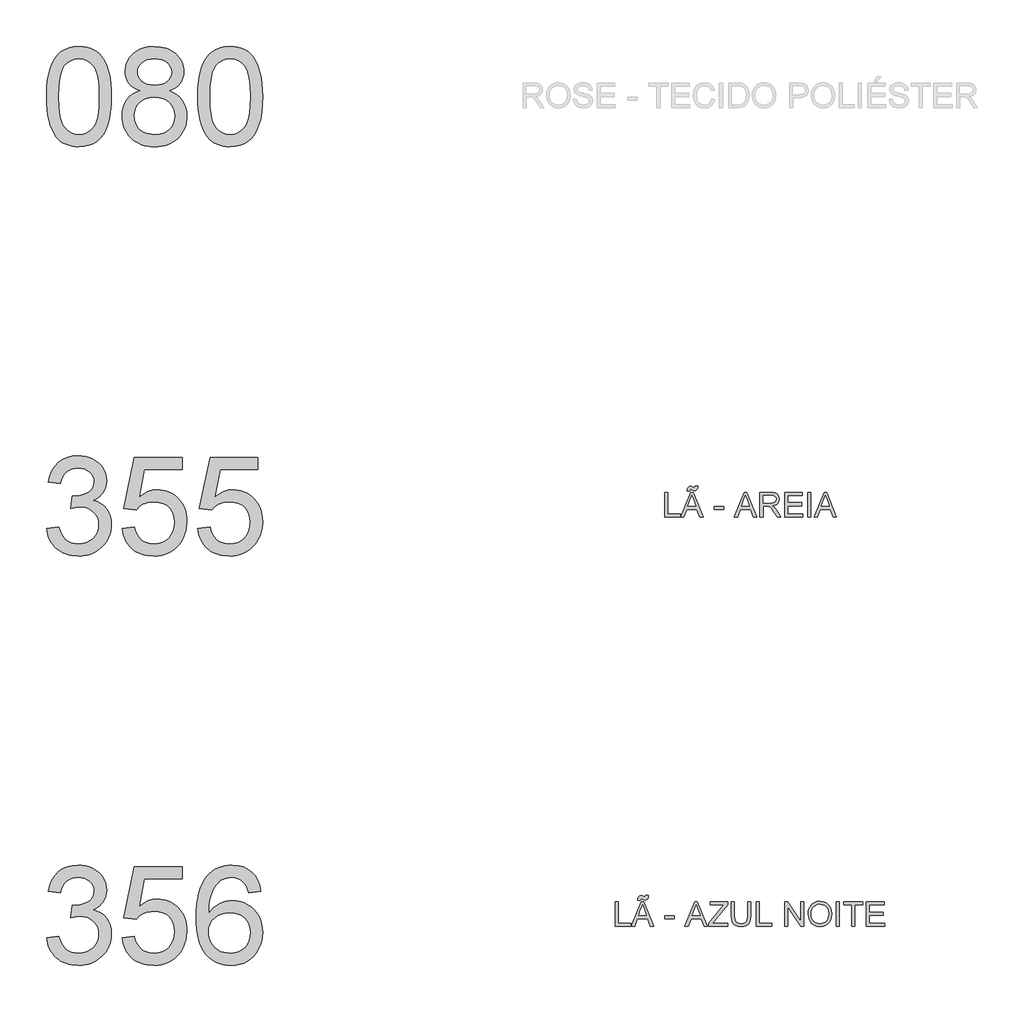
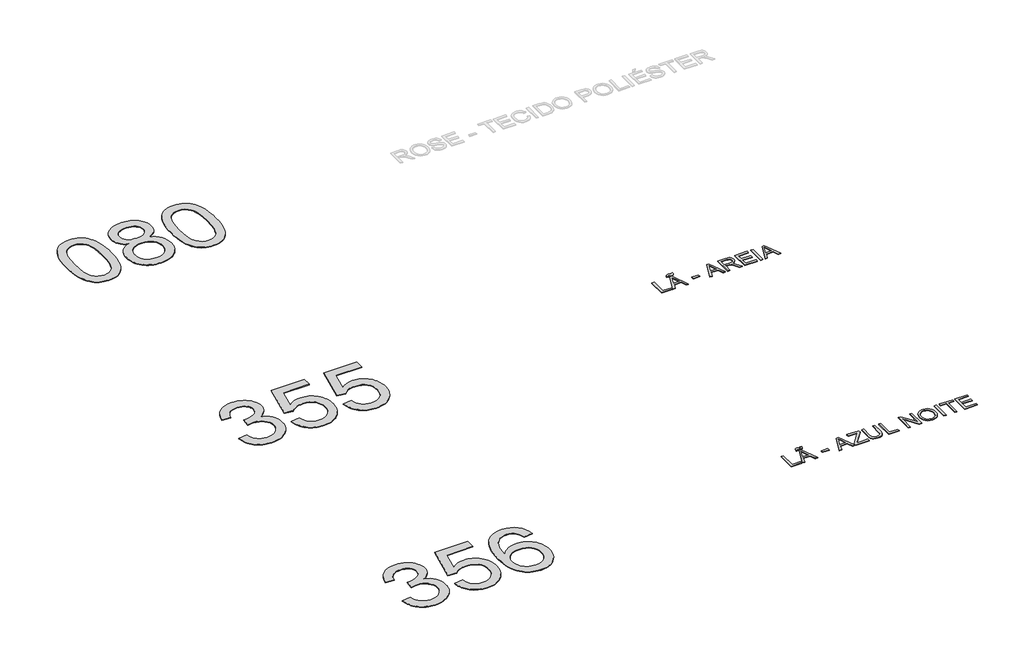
# One storey, part 3 of 67: 5 proxies.
"""IFC4 building model written with IfcOpenShell, lengths in millimetres."""

from ifc_helpers import new_model, si_unit, origin, origin_with_axes, place, context, project, spatial, polyline, outline, extrude, element, save

model = new_model("IFC4")

# Units and contexts
model_context = context("Model", 3, world=origin())
ifc_project = project(units=[si_unit("LENGTHUNIT", "METRE", prefix="MILLI")], contexts=[model_context])

# Site, building, storey
site = spatial("IfcSite", under=ifc_project)
building = spatial("IfcBuilding", under=site)
storey = spatial("IfcBuildingStorey", under=building, Name="Marelli - Linha COLAB - Planta Baixa", Elevation=0.0)

# Proxies
placement = place(None, origin())
element("IfcBuildingElementProxy", 1, Name="1200mm Arial", ObjectType="1200mm Arial", at=placement, inside=storey, context=model_context, shape_type="SweptSolid", body=[
    extrude(outline(polyline([(-25181.1313792, -109895.792664), (-25178.3630672, -109794.4319773), (-25170.0581311, -109702.8385576), (-25156.2165711, -109621.0124048), (-25136.838387, -109548.953519), (-25112.0063523, -109486.073289), (-25081.8032405, -109431.7831035), (-25046.2290516, -109386.0829627), (-25005.2837855, -109348.9728664), (-24958.8294866, -109320.2596767), (-24906.728199, -109299.7502555), (-24848.9799228, -109287.4446027), (-24785.584658, -109283.3427185), (-24737.9439396, -109285.7707396), (-24692.7312424, -109293.0548031), (-24649.9465664, -109305.194909), (-24609.5899115, -109322.1910572), (-24572.6361651, -109343.7581391), (-24540.0602144, -109369.6110463), (-24511.8620595, -109399.7497788), (-24488.0417003, -109434.1743365), (-24467.4035204, -109472.7467637), (-24448.7519032, -109515.3291046), (-24417.4083572, -109612.5235278), (-24405.4337983, -109669.6831928), (-24396.8805419, -109735.9479371), (-24391.7485881, -109811.3177609), (-24390.0379368, -109895.792664), (-24392.7786576, -109996.5095573), (-24401.0008202, -110087.6431245), (-24414.7044246, -110169.1933658), (-24433.8894706, -110241.1602811), (-24458.5283672, -110304.0681023), (-24488.5935233, -110358.4410612), (-24524.0849388, -110404.2791578), (-24565.0026137, -110441.5823921), (-24611.5120949, -110470.4887199), (-24663.7789294, -110491.1360968), (-24721.8031171, -110503.524523), (-24785.584658, -110507.6539984), (-24828.2589694, -110505.8605737), (-24868.5788361, -110500.4802995), (-24906.544258, -110491.5131759), (-24942.1552351, -110478.9592028), (-24975.4117675, -110462.8183803), (-25006.3138551, -110443.0907083), (-25034.8614979, -110419.7761868), (-25061.054696, -110392.8748159), (-25089.1976686, -110350.2786794), (-25113.5882449, -110302.0999336), (-25134.2264248, -110248.3385785), (-25151.1122084, -110188.9946142), (-25164.2455956, -110124.0680406), (-25173.6265865, -110053.5588577), (-25179.255181, -109977.4670655), (-25181.1313792, -109895.792664)]), holes=[polyline([(-25030.446914, -109895.4983584), (-25026.03233, -110026.4919399), (-25012.7885782, -110132.5247279), (-25002.8557643, -110176.1808245), (-24990.7156585, -110213.5967226), (-24976.3682607, -110244.7724225), (-24959.8135709, -110269.7079239), (-24922.4367602, -110307.884878), (-24880.9396711, -110335.1541309), (-24835.3223037, -110351.5156826), (-24785.584658, -110356.9695332), (-24735.8470122, -110351.4972885), (-24690.2296448, -110335.0805545), (-24648.7325558, -110307.7193311), (-24611.3557451, -110269.4136183), (-24594.8010553, -110244.418336), (-24580.4536575, -110213.2104465), (-24568.3135516, -110175.7899498), (-24558.3807378, -110132.1568459), (-24545.1369859, -110026.2528166), (-24540.722402, -109895.4983584), (-24544.9898331, -109767.9720648), (-24557.7921266, -109663.8062779), (-24567.3938467, -109620.4835744), (-24579.1292823, -109583.0009976), (-24592.9984335, -109551.3585475), (-24609.0013003, -109525.5562241), (-24645.7527116, -109485.5122689), (-24687.7280473, -109456.9094438), (-24734.9273073, -109439.7477487), (-24787.3504916, -109434.0271837), (-24836.8306199, -109439.067167), (-24881.6754351, -109454.187117), (-24921.8849372, -109479.3870337), (-24957.4591261, -109514.666917), (-24974.5656389, -109543.2145599), (-24989.3912833, -109577.2068562), (-25001.9360594, -109616.6438061), (-25012.199967, -109661.5254095), (-25025.8851772, -109767.6225769), (-25030.446914, -109895.4983584)])]), origin_with_axes(), (0.0, 0.0, 1.0), 10.0),
    extrude(outline(polyline([(-24038.637055, -109824.8650154), (-24081.9827511, -109806.7652212), (-24119.3135765, -109785.1337599), (-24150.6295314, -109759.9706314), (-24175.9306156, -109731.2758358), (-24195.4375584, -109699.3252845), (-24209.3710889, -109664.3948891), (-24217.7312073, -109626.4846495), (-24220.5179134, -109585.5945657), (-24214.4478605, -109524.1398784), (-24206.8602943, -109495.3301197), (-24196.2377017, -109467.7987509), (-24182.5800826, -109441.545772), (-24165.8874371, -109416.571183), (-24123.3970667, -109370.4571749), (-24098.109778, -109350.0397242), (-24070.8083355, -109332.3446002), (-24041.492739, -109317.371803), (-24010.1629886, -109305.1213326), (-23941.461026, -109288.787372), (-23864.7024477, -109283.3427185), (-23787.5759874, -109288.9161307), (-23718.35899, -109305.6363674), (-23686.7165399, -109318.1765449), (-23657.0514555, -109333.5034285), (-23629.3637368, -109351.6170182), (-23603.6533839, -109372.5173141), (-23560.3904613, -109419.5326331), (-23543.3943131, -109444.8613085), (-23529.4883737, -109471.4039944), (-23518.672643, -109499.1606909), (-23510.9471211, -109528.1313981), (-23506.311808, -109558.3161158), (-23504.7667036, -109589.7148441), (-23507.5166215, -109629.160991), (-23515.7663752, -109665.9767817), (-23529.5159648, -109700.1622161), (-23548.7653902, -109731.7172942), (-23573.6066219, -109760.2189518), (-23604.1316305, -109785.2441245), (-23640.3404159, -109806.7928124), (-23682.2329781, -109824.8650154), (-23632.7068645, -109845.9354566), (-23589.4899271, -109872.6528865), (-23552.5821659, -109905.0173051), (-23521.983581, -109943.0287122), (-23497.9700837, -109985.8409794), (-23480.8175857, -110032.607978), (-23470.5260869, -110083.3297081), (-23467.0955873, -110138.0061697), (-23468.7970415, -110176.3670647), (-23473.9014042, -110213.1644613), (-23482.4086753, -110248.3983594), (-23494.3188549, -110282.068759), (-23509.631943, -110314.1756601), (-23528.3479395, -110344.7190628), (-23550.4668444, -110373.6989669), (-23575.9886578, -110401.1153726), (-23604.2879803, -110426.085363), (-23634.7394125, -110447.7260214), (-23667.3429543, -110466.0373477), (-23702.0986058, -110481.019342), (-23739.006367, -110492.6720042), (-23778.0662378, -110500.9953343), (-23819.2782183, -110505.9893324), (-23862.6423085, -110507.6539984), (-23906.0063987, -110505.9824346), (-23947.2183792, -110500.9677432), (-23986.27825, -110492.6099241), (-24023.1860112, -110480.9089774), (-24057.9416627, -110465.864903), (-24090.5452045, -110447.4777011), (-24120.9966367, -110425.7473715), (-24149.2959591, -110400.6739142), (-24174.8177725, -110373.1034579), (-24196.9366775, -110343.8821312), (-24215.652674, -110313.009934), (-24230.9657621, -110280.4868664), (-24242.8759417, -110246.3129283), (-24251.3832128, -110210.4881198), (-24256.4875755, -110173.0124408), (-24258.1890297, -110133.8858913), (-24254.6205744, -110076.7170293), (-24243.9152083, -110024.4042096), (-24226.0729315, -109976.9474322), (-24201.0937441, -109934.3466971), (-24169.5294689, -109897.3745566), (-24131.931929, -109866.8035628), (-24088.3011243, -109842.6337157), (-24038.637055, -109824.8650154)]), holes=[polyline([(-24069.8334482, -109590.0091496), (-24066.4949191, -109624.553269), (-24056.4793317, -109655.7864504), (-24039.7866862, -109683.7086938), (-24016.4169825, -109708.3199993), (-23986.6645261, -109728.4063562), (-23950.8236227, -109742.753754), (-23908.8942723, -109751.3621927), (-23860.8764749, -109754.2316723), (-23814.0450969, -109751.3805868), (-23773.0262545, -109742.8273304), (-23737.8199475, -109728.5719031), (-23708.4261761, -109708.6143049), (-23685.2496104, -109684.5180342), (-23668.6949206, -109657.8465896), (-23658.7621068, -109628.5999709), (-23655.4511688, -109596.7781784), (-23658.8724714, -109563.714784), (-23669.136379, -109533.3921106), (-23686.2428918, -109505.810158), (-23710.1920097, -109480.9689263), (-23740.2479687, -109460.4319139), (-23775.6750048, -109445.7626193), (-23816.4731181, -109436.9610426), (-23862.6423085, -109434.0271837), (-23909.1701838, -109436.8966633), (-23950.1614351, -109445.5051019), (-23985.6160624, -109459.8524998), (-24015.5340657, -109479.9388567), (-24039.2900455, -109504.0351274), (-24056.2586026, -109530.4122664), (-24066.4397368, -109559.0702739), (-24069.8334482, -109590.0091496)]), polyline([(-24107.5045645, -110128.5883906), (-24105.931869, -110157.6418712), (-24101.2137824, -110186.2354992), (-24082.341436, -110242.0431979), (-24067.3410477, -110267.9328933), (-24047.5030111, -110290.7139859), (-24022.8273262, -110310.3864756), (-23993.3139932, -110326.9503624), (-23961.1243186, -110340.0837496), (-23928.4196092, -110349.4647405), (-23895.1998651, -110355.093335), (-23861.4650861, -110356.9695332), (-23806.9817626, -110353.0239988), (-23758.8995859, -110341.1873956), (-23717.2185558, -110321.4597236), (-23681.9386725, -110293.8409828), (-23653.8692762, -110260.133795), (-23633.8197075, -110222.140782), (-23621.7899662, -110179.8619437), (-23617.7800525, -110133.2972801), (-23621.9187249, -110085.9876555), (-23634.3347423, -110042.9454621), (-23655.0281045, -110004.1706998), (-23683.9988116, -109969.6633687), (-23720.2351882, -109941.336455), (-23762.7255586, -109921.1029453), (-23811.469923, -109908.9628395), (-23866.4682812, -109904.9161375), (-23920.1514614, -109908.9076572), (-23967.5990417, -109920.8822161), (-24008.8110222, -109940.8398143), (-24043.7874029, -109968.7804519), (-24071.6636611, -110002.7175659), (-24091.5752741, -110040.6645937), (-24103.5222419, -110082.6215353), (-24107.5045645, -110128.5883906)])]), origin_with_axes(), (0.0, 0.0, 1.0), 10.0),
    extrude(outline(polyline([(-23335.2466802, -109895.792664), (-23332.4783682, -109794.4319773), (-23324.1734322, -109702.8385576), (-23310.3318721, -109621.0124048), (-23290.953688, -109548.953519), (-23266.1216533, -109486.073289), (-23235.9185415, -109431.7831035), (-23200.3443526, -109386.0829627), (-23159.3990865, -109348.9728664), (-23112.9447876, -109320.2596767), (-23060.8435, -109299.7502555), (-23003.0952238, -109287.4446027), (-22939.699959, -109283.3427185), (-22892.0592406, -109285.7707396), (-22846.8465434, -109293.0548031), (-22804.0618674, -109305.194909), (-22763.7052125, -109322.1910572), (-22726.7514661, -109343.7581391), (-22694.1755154, -109369.6110463), (-22665.9773605, -109399.7497788), (-22642.1570013, -109434.1743365), (-22621.5188214, -109472.7467637), (-22602.8672042, -109515.3291046), (-22571.5236582, -109612.5235278), (-22559.5490993, -109669.6831928), (-22550.9958429, -109735.9479371), (-22545.8638891, -109811.3177609), (-22544.1532378, -109895.792664), (-22546.8939586, -109996.5095573), (-22555.1161212, -110087.6431245), (-22568.8197256, -110169.1933658), (-22588.0047716, -110241.1602811), (-22612.6436682, -110304.0681023), (-22642.7088243, -110358.4410612), (-22678.2002398, -110404.2791578), (-22719.1179147, -110441.5823921), (-22765.6273959, -110470.4887199), (-22817.8942304, -110491.1360968), (-22875.9184181, -110503.524523), (-22939.699959, -110507.6539984), (-22982.3742704, -110505.8605737), (-23022.6941371, -110500.4802995), (-23060.659559, -110491.5131759), (-23096.2705361, -110478.9592028), (-23129.5270685, -110462.8183803), (-23160.4291561, -110443.0907083), (-23188.9767989, -110419.7761868), (-23215.169997, -110392.8748159), (-23243.3129696, -110350.2786794), (-23267.7035459, -110302.0999336), (-23288.3417258, -110248.3385785), (-23305.2275094, -110188.9946142), (-23318.3608966, -110124.0680406), (-23327.7418875, -110053.5588577), (-23333.370482, -109977.4670655), (-23335.2466802, -109895.792664)]), holes=[polyline([(-23184.562215, -109895.4983584), (-23180.147631, -110026.4919399), (-23166.9038792, -110132.5247279), (-23156.9710653, -110176.1808245), (-23144.8309595, -110213.5967226), (-23130.4835617, -110244.7724225), (-23113.9288719, -110269.7079239), (-23076.5520612, -110307.884878), (-23035.0549721, -110335.1541309), (-22989.4376047, -110351.5156826), (-22939.699959, -110356.9695332), (-22889.9623132, -110351.4972885), (-22844.3449458, -110335.0805545), (-22802.8478568, -110307.7193311), (-22765.4710461, -110269.4136183), (-22748.9163563, -110244.418336), (-22734.5689585, -110213.2104465), (-22722.4288526, -110175.7899498), (-22712.4960388, -110132.1568459), (-22699.2522869, -110026.2528166), (-22694.837703, -109895.4983584), (-22699.1051341, -109767.9720648), (-22711.9074276, -109663.8062779), (-22721.5091477, -109620.4835744), (-22733.2445833, -109583.0009976), (-22747.1137345, -109551.3585475), (-22763.1166013, -109525.5562241), (-22799.8680126, -109485.5122689), (-22841.8433483, -109456.9094438), (-22889.0426083, -109439.7477487), (-22941.4657926, -109434.0271837), (-22990.9459209, -109439.067167), (-23035.7907361, -109454.187117), (-23076.0002382, -109479.3870337), (-23111.5744271, -109514.666917), (-23128.6809399, -109543.2145599), (-23143.5065843, -109577.2068562), (-23156.0513604, -109616.6438061), (-23166.315268, -109661.5254095), (-23180.0004782, -109767.6225769), (-23184.562215, -109895.4983584)])]), origin_with_axes(), (0.0, 0.0, 1.0), 10.0),
])
element("IfcBuildingElementProxy", 2, Name="1200mm Arial", ObjectType="1200mm Arial", at=placement, inside=storey, context=model_context, shape_type="SweptSolid", body=[
    extrude(outline(polyline([(-25181.1313792, -115168.6139517), (-25030.446914, -115149.7783935), (-25015.5384961, -115200.9691731), (-24996.712135, -115244.4712191), (-24973.9678307, -115280.2845313), (-24947.3055831, -115308.4091098), (-24916.1183869, -115329.6542951), (-24879.799237, -115344.8294274), (-24838.3481331, -115353.9345067), (-24791.7650755, -115356.9695332), (-24737.1713874, -115352.7940725), (-24688.4638113, -115340.2676906), (-24645.642347, -115319.3903874), (-24608.7069947, -115290.1621629), (-24578.9637354, -115254.7719149), (-24557.7185502, -115215.4085415), (-24544.971439, -115172.0720424), (-24540.722402, -115124.7624178), (-24544.9346508, -115079.7060705), (-24557.5713974, -115038.7148192), (-24578.6326416, -115001.7886639), (-24608.1183835, -114968.9276047), (-24644.0972426, -114941.9526574), (-24684.6378385, -114922.6848379), (-24729.7401711, -114911.1241462), (-24779.4042405, -114907.2705823), (-24827.0081706, -114911.3908606), (-24885.0599495, -114923.7516957), (-24868.2845305, -114773.0672304), (-24844.1514716, -114774.833064), (-24797.8167343, -114772.1291314), (-24753.87323, -114764.0173334), (-24712.3209587, -114750.49767), (-24673.1599203, -114731.5701414), (-24639.9401761, -114707.0324123), (-24616.2117874, -114676.6821477), (-24601.9747542, -114640.5193476), (-24597.2290765, -114598.5440119), (-24600.6687731, -114564.4689421), (-24610.9878631, -114533.465687), (-24628.1863464, -114505.5342465), (-24652.2642229, -114480.6746207), (-24681.768359, -114460.266367), (-24715.2456205, -114445.6890429), (-24752.6960076, -114436.9426485), (-24794.1195203, -114434.0271837), (-24835.4326683, -114436.9702397), (-24873.1405728, -114445.7994075), (-24907.2432338, -114460.5146873), (-24937.7406512, -114481.1160791), (-24963.878667, -114507.6035827), (-24984.903123, -114539.9771983), (-25000.8140193, -114578.2369258), (-25011.6113558, -114622.3827652), (-25162.2958211, -114603.5472071), (-25144.4351502, -114531.6078829), (-25117.9292524, -114468.2402092), (-25082.7781278, -114413.4441861), (-25038.9817763, -114367.2198134), (-24987.9197553, -114330.5235844), (-24930.9716225, -114304.3119922), (-24868.1373777, -114288.5850369), (-24799.417021, -114283.3427185), (-24751.0865239, -114285.9270895), (-24704.6874073, -114293.6802025), (-24660.2196711, -114306.6020576), (-24617.6833154, -114324.6926547), (-24578.5590652, -114347.2622151), (-24544.3276456, -114373.6209601), (-24514.9890564, -114403.7688896), (-24490.5432979, -114437.7060036), (-24471.2938725, -114474.0803359), (-24457.5442829, -114511.5399201), (-24449.2945291, -114550.0847561), (-24446.5446112, -114589.7148441), (-24449.1565734, -114626.9812902), (-24456.9924599, -114662.5554791), (-24470.0522707, -114696.4374109), (-24488.3360059, -114728.6270854), (-24511.7333008, -114758.3703447), (-24540.1337908, -114784.9130307), (-24573.537476, -114808.2551433), (-24611.9443563, -114828.3966825), (-24561.7284639, -114844.1052437), (-24517.6194127, -114866.5092572), (-24479.6172026, -114895.608723), (-24447.7218336, -114931.4036412), (-24422.4851288, -114973.0110948), (-24404.458911, -115019.5481672), (-24393.6431803, -115071.0148583), (-24390.0379368, -115127.4111682), (-24391.8405586, -115166.3882656), (-24397.2484239, -115203.8570468), (-24406.2615328, -115239.8175118), (-24418.8798852, -115274.2696607), (-24435.1034812, -115307.2134933), (-24454.9323207, -115338.6490098), (-24478.3664038, -115368.5762101), (-24505.4057305, -115396.9950943), (-24535.1995735, -115422.9307749), (-24566.897206, -115445.4083648), (-24600.4986277, -115464.427864), (-24636.0038388, -115479.9892724), (-24673.4128391, -115492.09259), (-24712.7256288, -115500.7378169), (-24753.9422079, -115505.924953), (-24797.0625762, -115507.6539984), (-24873.2877256, -115501.7494924), (-24908.8619146, -115494.3688599), (-24942.7438463, -115484.0359743), (-24974.9335209, -115470.7508358), (-25005.4309383, -115454.5134442), (-25034.2360985, -115435.3237996), (-25061.3490016, -115413.1819021), (-25086.2040289, -115388.6947568), (-25108.2355619, -115362.469369), (-25127.4436005, -115334.5057389), (-25143.8281449, -115304.8038663), (-25157.3891949, -115273.3637513), (-25168.1267507, -115240.1853938), (-25181.1313792, -115168.6139517)])), origin_with_axes(), (0.0, 0.0, 1.0), 10.0),
    extrude(outline(polyline([(-24258.1890297, -115168.6139517), (-24107.5045645, -115149.7783935), (-24096.2473754, -115198.2192552), (-24079.8398384, -115240.2405761), (-24058.2819535, -115275.8423562), (-24031.5737207, -115305.0245955), (-23999.7703222, -115327.7505057), (-23962.9269404, -115343.9832988), (-23921.0435752, -115353.7229746), (-23874.1202267, -115356.9695332), (-23816.7306355, -115352.4537817), (-23766.110073, -115338.9065272), (-23722.2585391, -115316.3277698), (-23685.176034, -115284.7175093), (-23655.6902921, -115245.6392444), (-23634.6290479, -115200.6564734), (-23621.9923013, -115149.7691965), (-23617.7800525, -115092.9774135), (-23621.7255869, -115039.3034304), (-23633.5621901, -114991.5891356), (-23653.2898621, -114949.8345291), (-23680.9086029, -114914.039611), (-23716.510383, -114885.3264213), (-23760.1871728, -114864.817), (-23811.9389725, -114852.5113473), (-23871.765782, -114848.4094631), (-23910.0531006, -114850.0465379), (-23944.8639344, -114854.9577626), (-23976.1982834, -114863.143137), (-24004.0561474, -114874.6026611), (-24051.3289838, -114904.6954083), (-24088.6690063, -114942.5872538), (-24239.3534716, -114923.7516957), (-24107.5045645, -114302.1782766), (-23523.6022617, -114302.1782766), (-23523.6022617, -114452.8627418), (-23985.6620477, -114452.8627418), (-24050.1149732, -114784.8394543), (-23996.9376308, -114746.7268796), (-23942.4727014, -114719.503612), (-23886.7201851, -114703.1696514), (-23829.6800817, -114697.7249978), (-23792.2411909, -114699.4126565), (-23756.2968207, -114704.4756324), (-23721.8469711, -114712.9139257), (-23688.8916422, -114724.7275363), (-23657.4308338, -114739.9164642), (-23627.464546, -114758.4807093), (-23598.9927789, -114780.4202718), (-23572.0155323, -114805.7351516), (-23547.4249202, -114833.7033803), (-23526.1130564, -114863.6029895), (-23508.0799408, -114895.4339791), (-23493.3255735, -114929.1963492), (-23481.8499545, -114964.8900998), (-23473.6530838, -115002.5152308), (-23468.7349614, -115042.0717424), (-23467.0955873, -115083.5596344), (-23473.0000933, -115161.6241938), (-23480.3807258, -115198.6147284), (-23490.7136114, -115234.2440996), (-23503.9987499, -115268.5123075), (-23520.2361415, -115301.4193519), (-23539.4257861, -115332.965233), (-23561.5676836, -115363.1499507), (-23591.5684603, -115397.0180869), (-23624.1811992, -115426.3704716), (-23659.4059003, -115451.2071048), (-23697.2425635, -115471.5279865), (-23737.6911888, -115487.3331167), (-23780.7517764, -115498.6224954), (-23826.4243261, -115505.3961227), (-23874.7088379, -115507.6539984), (-23952.4698947, -115501.8506599), (-23988.529228, -115494.5964869), (-24022.7077646, -115484.4406445), (-24055.0055045, -115471.383133), (-24085.4224477, -115455.4239522), (-24113.9585942, -115436.5631021), (-24140.613944, -115414.8005828), (-24164.9516373, -115390.6422321), (-24186.5348141, -115364.5938875), (-24205.3634745, -115336.6555493), (-24221.4376184, -115306.8272173), (-24234.7572459, -115275.1088915), (-24245.3223569, -115241.500572), (-24258.1890297, -115168.6139517)])), origin_with_axes(), (0.0, 0.0, 1.0), 10.0),
    extrude(outline(polyline([(-23335.2466802, -115168.6139517), (-23184.562215, -115149.7783935), (-23173.3050259, -115198.2192552), (-23156.8974889, -115240.2405761), (-23135.339604, -115275.8423562), (-23108.6313712, -115305.0245955), (-23076.8279727, -115327.7505057), (-23039.9845909, -115343.9832988), (-22998.1012257, -115353.7229746), (-22951.1778772, -115356.9695332), (-22893.788286, -115352.4537817), (-22843.1677235, -115338.9065272), (-22799.3161896, -115316.3277698), (-22762.2336845, -115284.7175093), (-22732.7479426, -115245.6392444), (-22711.6866984, -115200.6564734), (-22699.0499518, -115149.7691965), (-22694.837703, -115092.9774135), (-22698.7832374, -115039.3034304), (-22710.6198406, -114991.5891356), (-22730.3475126, -114949.8345291), (-22757.9662534, -114914.039611), (-22793.5680335, -114885.3264213), (-22837.2448233, -114864.817), (-22888.996623, -114852.5113473), (-22948.8234325, -114848.4094631), (-22987.1107511, -114850.0465379), (-23021.9215849, -114854.9577626), (-23053.2559339, -114863.143137), (-23081.1137979, -114874.6026611), (-23128.3866343, -114904.6954083), (-23165.7266568, -114942.5872538), (-23316.4111221, -114923.7516957), (-23184.562215, -114302.1782766), (-22600.6599122, -114302.1782766), (-22600.6599122, -114452.8627418), (-23062.7196982, -114452.8627418), (-23127.1726237, -114784.8394543), (-23073.9952813, -114746.7268796), (-23019.5303519, -114719.503612), (-22963.7778356, -114703.1696514), (-22906.7377322, -114697.7249978), (-22869.2988414, -114699.4126565), (-22833.3544712, -114704.4756324), (-22798.9046216, -114712.9139257), (-22765.9492927, -114724.7275363), (-22734.4884843, -114739.9164642), (-22704.5221965, -114758.4807093), (-22676.0504294, -114780.4202718), (-22649.0731828, -114805.7351516), (-22624.4825707, -114833.7033803), (-22603.1707069, -114863.6029895), (-22585.1375913, -114895.4339791), (-22570.383224, -114929.1963492), (-22558.907605, -114964.8900998), (-22550.7107343, -115002.5152308), (-22545.7926119, -115042.0717424), (-22544.1532378, -115083.5596344), (-22550.0577438, -115161.6241938), (-22557.4383763, -115198.6147284), (-22567.7712619, -115234.2440996), (-22581.0564004, -115268.5123075), (-22597.293792, -115301.4193519), (-22616.4834366, -115332.965233), (-22638.6253341, -115363.1499507), (-22668.6261108, -115397.0180869), (-22701.2388497, -115426.3704716), (-22736.4635508, -115451.2071048), (-22774.300214, -115471.5279865), (-22814.7488393, -115487.3331167), (-22857.8094269, -115498.6224954), (-22903.4819766, -115505.3961227), (-22951.7664884, -115507.6539984), (-23029.5275452, -115501.8506599), (-23065.5868785, -115494.5964869), (-23099.7654151, -115484.4406445), (-23132.063155, -115471.383133), (-23162.4800982, -115455.4239522), (-23191.0162447, -115436.5631021), (-23217.6715945, -115414.8005828), (-23242.0092878, -115390.6422321), (-23263.5924646, -115364.5938875), (-23282.421125, -115336.6555493), (-23298.4952689, -115306.8272173), (-23311.8148964, -115275.1088915), (-23322.3800074, -115241.500572), (-23335.2466802, -115168.6139517)])), origin_with_axes(), (0.0, 0.0, 1.0), 10.0),
])
element("IfcBuildingElementProxy", 3, Name="1200mm Arial", ObjectType="1200mm Arial", at=placement, inside=storey, context=model_context, shape_type="SweptSolid", body=[
    extrude(outline(polyline([(-25181.1313792, -120168.6139517), (-25030.446914, -120149.7783935), (-25015.5384961, -120200.9691731), (-24996.712135, -120244.4712191), (-24973.9678307, -120280.2845313), (-24947.3055831, -120308.4091098), (-24916.1183869, -120329.6542951), (-24879.799237, -120344.8294274), (-24838.3481331, -120353.9345067), (-24791.7650755, -120356.9695332), (-24737.1713874, -120352.7940725), (-24688.4638113, -120340.2676906), (-24645.642347, -120319.3903874), (-24608.7069947, -120290.1621629), (-24578.9637354, -120254.7719149), (-24557.7185502, -120215.4085414), (-24544.971439, -120172.0720424), (-24540.722402, -120124.7624178), (-24544.9346508, -120079.7060705), (-24557.5713974, -120038.7148192), (-24578.6326416, -120001.7886639), (-24608.1183835, -119968.9276047), (-24644.0972426, -119941.9526574), (-24684.6378385, -119922.6848379), (-24729.7401711, -119911.1241462), (-24779.4042405, -119907.2705823), (-24827.0081706, -119911.3908606), (-24885.0599495, -119923.7516957), (-24868.2845305, -119773.0672304), (-24844.1514716, -119774.833064), (-24797.8167343, -119772.1291314), (-24753.87323, -119764.0173334), (-24712.3209587, -119750.49767), (-24673.1599203, -119731.5701414), (-24639.9401761, -119707.0324123), (-24616.2117874, -119676.6821477), (-24601.9747542, -119640.5193476), (-24597.2290765, -119598.5440119), (-24600.6687731, -119564.4689421), (-24610.9878631, -119533.465687), (-24628.1863464, -119505.5342465), (-24652.2642229, -119480.6746207), (-24681.768359, -119460.266367), (-24715.2456205, -119445.6890429), (-24752.6960076, -119436.9426485), (-24794.1195203, -119434.0271837), (-24835.4326683, -119436.9702397), (-24873.1405728, -119445.7994075), (-24907.2432338, -119460.5146873), (-24937.7406512, -119481.1160791), (-24963.878667, -119507.6035827), (-24984.903123, -119539.9771983), (-25000.8140193, -119578.2369258), (-25011.6113558, -119622.3827652), (-25162.2958211, -119603.5472071), (-25144.4351502, -119531.6078829), (-25117.9292524, -119468.2402092), (-25082.7781278, -119413.4441861), (-25038.9817763, -119367.2198134), (-24987.9197553, -119330.5235844), (-24930.9716225, -119304.3119922), (-24868.1373777, -119288.5850369), (-24799.417021, -119283.3427185), (-24751.0865239, -119285.9270895), (-24704.6874073, -119293.6802025), (-24660.2196711, -119306.6020576), (-24617.6833154, -119324.6926547), (-24578.5590652, -119347.2622151), (-24544.3276456, -119373.6209601), (-24514.9890564, -119403.7688896), (-24490.5432979, -119437.7060036), (-24471.2938725, -119474.0803359), (-24457.5442829, -119511.5399201), (-24449.2945291, -119550.0847561), (-24446.5446112, -119589.7148441), (-24449.1565734, -119626.9812902), (-24456.9924599, -119662.5554791), (-24470.0522707, -119696.4374109), (-24488.3360059, -119728.6270854), (-24511.7333008, -119758.3703447), (-24540.1337908, -119784.9130307), (-24573.537476, -119808.2551433), (-24611.9443563, -119828.3966825), (-24561.7284639, -119844.1052437), (-24517.6194127, -119866.5092572), (-24479.6172026, -119895.608723), (-24447.7218336, -119931.4036412), (-24422.4851288, -119973.0110948), (-24404.458911, -120019.5481672), (-24393.6431803, -120071.0148583), (-24390.0379368, -120127.4111682), (-24391.8405586, -120166.3882656), (-24397.2484239, -120203.8570468), (-24406.2615328, -120239.8175118), (-24418.8798852, -120274.2696607), (-24435.1034812, -120307.2134933), (-24454.9323207, -120338.6490098), (-24478.3664038, -120368.5762101), (-24505.4057305, -120396.9950943), (-24535.1995735, -120422.9307749), (-24566.897206, -120445.4083648), (-24600.4986277, -120464.427864), (-24636.0038388, -120479.9892724), (-24673.4128391, -120492.09259), (-24712.7256288, -120500.7378169), (-24753.9422079, -120505.924953), (-24797.0625762, -120507.6539984), (-24873.2877256, -120501.7494924), (-24908.8619146, -120494.3688599), (-24942.7438463, -120484.0359743), (-24974.9335209, -120470.7508358), (-25005.4309383, -120454.5134442), (-25034.2360985, -120435.3237996), (-25061.3490016, -120413.1819021), (-25086.2040289, -120388.6947568), (-25108.2355619, -120362.469369), (-25127.4436005, -120334.5057389), (-25143.8281449, -120304.8038663), (-25157.3891949, -120273.3637513), (-25168.1267507, -120240.1853938), (-25181.1313792, -120168.6139517)])), origin_with_axes(), (0.0, 0.0, 1.0), 10.0),
    extrude(outline(polyline([(-24258.1890297, -120168.6139517), (-24107.5045645, -120149.7783935), (-24096.2473754, -120198.2192552), (-24079.8398384, -120240.2405761), (-24058.2819535, -120275.8423562), (-24031.5737207, -120305.0245955), (-23999.7703222, -120327.7505057), (-23962.9269404, -120343.9832988), (-23921.0435752, -120353.7229746), (-23874.1202267, -120356.9695332), (-23816.7306355, -120352.4537817), (-23766.110073, -120338.9065272), (-23722.2585391, -120316.3277698), (-23685.176034, -120284.7175093), (-23655.6902921, -120245.6392444), (-23634.6290479, -120200.6564734), (-23621.9923013, -120149.7691965), (-23617.7800525, -120092.9774135), (-23621.7255869, -120039.3034304), (-23633.5621901, -119991.5891356), (-23653.2898621, -119949.8345291), (-23680.9086029, -119914.039611), (-23716.510383, -119885.3264213), (-23760.1871728, -119864.817), (-23811.9389725, -119852.5113473), (-23871.765782, -119848.4094631), (-23910.0531006, -119850.0465379), (-23944.8639344, -119854.9577626), (-23976.1982834, -119863.143137), (-24004.0561474, -119874.6026611), (-24051.3289838, -119904.6954083), (-24088.6690063, -119942.5872538), (-24239.3534716, -119923.7516957), (-24107.5045645, -119302.1782766), (-23523.6022617, -119302.1782766), (-23523.6022617, -119452.8627418), (-23985.6620477, -119452.8627418), (-24050.1149732, -119784.8394543), (-23996.9376308, -119746.7268796), (-23942.4727014, -119719.503612), (-23886.7201851, -119703.1696514), (-23829.6800817, -119697.7249978), (-23792.2411909, -119699.4126565), (-23756.2968207, -119704.4756324), (-23721.8469711, -119712.9139257), (-23688.8916422, -119724.7275363), (-23657.4308338, -119739.9164642), (-23627.464546, -119758.4807093), (-23598.9927789, -119780.4202718), (-23572.0155323, -119805.7351516), (-23547.4249202, -119833.7033803), (-23526.1130564, -119863.6029895), (-23508.0799408, -119895.4339791), (-23493.3255735, -119929.1963492), (-23481.8499545, -119964.8900998), (-23473.6530838, -120002.5152308), (-23468.7349614, -120042.0717424), (-23467.0955873, -120083.5596344), (-23473.0000933, -120161.6241938), (-23480.3807258, -120198.6147284), (-23490.7136114, -120234.2440996), (-23503.9987499, -120268.5123075), (-23520.2361415, -120301.4193519), (-23539.4257861, -120332.965233), (-23561.5676836, -120363.1499507), (-23591.5684603, -120397.0180869), (-23624.1811992, -120426.3704716), (-23659.4059003, -120451.2071048), (-23697.2425635, -120471.5279865), (-23737.6911888, -120487.3331167), (-23780.7517764, -120498.6224954), (-23826.4243261, -120505.3961227), (-23874.7088379, -120507.6539984), (-23952.4698947, -120501.8506599), (-23988.529228, -120494.5964869), (-24022.7077646, -120484.4406445), (-24055.0055045, -120471.383133), (-24085.4224477, -120455.4239522), (-24113.9585942, -120436.5631021), (-24140.613944, -120414.8005828), (-24164.9516373, -120390.6422321), (-24186.5348141, -120364.5938875), (-24205.3634745, -120336.6555493), (-24221.4376184, -120306.8272173), (-24234.7572459, -120275.1088915), (-24245.3223569, -120241.500572), (-24258.1890297, -120168.6139517)])), origin_with_axes(), (0.0, 0.0, 1.0), 10.0),
    extrude(outline(polyline([(-22562.9887959, -119603.5472071), (-22713.6732612, -119622.3827652), (-22724.7465092, -119582.0812927), (-22737.9534728, -119547.7027202), (-22753.294152, -119519.2470479), (-22770.7685468, -119496.7142757), (-22803.1605565, -119469.2886729), (-22839.1210215, -119449.6989567), (-22878.6499419, -119437.9451269), (-22921.7473176, -119434.0271837), (-22957.2847184, -119436.3080521), (-22991.7920495, -119443.1506572), (-23025.2693111, -119454.554999), (-23057.716503, -119470.5210776), (-23087.3218066, -119496.6315022), (-23114.3335421, -119528.1681863), (-23138.7517095, -119565.1311297), (-23160.5763089, -119607.5203326), (-23178.6485119, -119658.1316981), (-23191.8094903, -119719.7611293), (-23200.059244, -119792.4086263), (-23203.3977731, -119876.0741891), (-23174.6753864, -119838.2099347), (-23142.9547613, -119805.5512106), (-23108.235898, -119778.0980167), (-23070.5187965, -119755.8503531), (-23030.8151321, -119738.6610669), (-22990.1365805, -119726.3830053), (-22948.4831416, -119719.0161683), (-22905.8548154, -119716.560556), (-22868.9562513, -119718.2390176), (-22833.4556388, -119723.2744024), (-22799.3529778, -119731.6667104), (-22766.6482685, -119743.4159416), (-22735.3415107, -119758.5220961), (-22705.4327045, -119776.9851737), (-22676.9218498, -119798.8051745), (-22649.8089468, -119823.9820986), (-22625.04589, -119851.81697), (-22603.5845741, -119881.6108131), (-22585.4249991, -119913.3636278), (-22570.567165, -119947.0754142), (-22559.0110719, -119982.7461721), (-22550.7567196, -120020.3759017), (-22545.8041082, -120059.9646029), (-22544.1532378, -120101.5122757), (-22547.2618406, -120156.4462547), (-22556.5876492, -120209.4120649), (-22572.1306635, -120260.4097065), (-22593.8908835, -120309.4391794), (-22621.0957571, -120354.6702707), (-22652.9727319, -120394.2727675), (-22689.5218082, -120428.2466698), (-22730.7429857, -120456.5919775), (-22775.7533478, -120478.9316116), (-22823.6699777, -120494.8884932), (-22874.4928753, -120504.4626221), (-22928.2220407, -120507.6539984), (-22974.223385, -120505.5386769), (-23018.0496269, -120499.1927125), (-23059.7007666, -120488.6161052), (-23099.1768039, -120473.8088549), (-23136.4777389, -120454.7709616), (-23171.6035717, -120431.5024254), (-23204.5543022, -120404.0032463), (-23235.3299303, -120372.2734242), (-23263.1625025, -120335.6875598), (-23287.2840651, -120293.6202536), (-23307.694618, -120246.0715057), (-23324.3941613, -120193.0413161), (-23337.382695, -120134.5296848), (-23346.6602191, -120070.5366117), (-23352.2267335, -120001.062097), (-23354.0822384, -119926.1061404), (-23352.0220992, -119842.1784618), (-23345.8416817, -119764.1828803), (-23335.5409858, -119692.1193959), (-23321.1200116, -119625.9880088), (-23302.578759, -119565.7887188), (-23279.9172281, -119511.521526), (-23253.1354189, -119463.1864303), (-23222.2333313, -119420.7834319), (-23192.218759, -119388.5707647), (-23159.7117862, -119360.6531198), (-23124.7124129, -119337.0304971), (-23087.2206391, -119317.7028968), (-23047.2364647, -119302.6703188), (-23004.7598898, -119291.9327631), (-22959.7909145, -119285.4902296), (-22912.3295385, -119283.3427185), (-22842.9286002, -119288.6586133), (-22780.1127495, -119304.6062978), (-22723.8819865, -119331.1857719), (-22674.2363113, -119368.3970358), (-22632.518493, -119414.9892904), (-22600.071301, -119469.7117372), (-22576.8947353, -119532.5643761), (-22562.9887959, -119603.5472071)]), holes=[polyline([(-23203.3977731, -120099.157831), (-23201.2180723, -120132.9202011), (-23194.6789698, -120165.9284131), (-23183.7804657, -120198.182467), (-23168.52256, -120229.6823629), (-23149.6502136, -120258.9473756), (-23127.9083877, -120284.4967801), (-23103.2970822, -120306.3305766), (-23075.8162972, -120324.4487648), (-23045.6407766, -120338.676601), (-23012.9452642, -120348.8393411), (-22977.7297602, -120354.9369852), (-22939.9942646, -120356.9695332), (-22887.6170655, -120352.7572843), (-22840.5557613, -120340.1205378), (-22798.8103519, -120319.0592936), (-22762.3808373, -120289.5735517), (-22732.8307161, -120252.8589286), (-22711.7234866, -120210.1110407), (-22699.0591489, -120161.3298882), (-22694.837703, -120106.5154709), (-22699.0039666, -120053.8439662), (-22711.5027574, -120007.0769676), (-22732.3340754, -119966.214475), (-22761.4979205, -119931.2564884), (-22798.0377997, -119903.2514715), (-22840.9972197, -119883.247888), (-22890.3761805, -119871.2457379), (-22946.1746821, -119867.2450212), (-22997.8529054, -119871.2457379), (-23045.4660326, -119883.247888), (-23089.0140638, -119903.2514715), (-23128.4969989, -119931.2564884), (-23161.2660876, -119965.7546225), (-23184.6725796, -120005.2375576), (-23198.7164747, -120049.7052938), (-23203.3977731, -120099.157831)])]), origin_with_axes(), (0.0, 0.0, 1.0), 10.0),
])
element("IfcBuildingElementProxy", 4, Name="300mm Arial", ObjectType="300mm Arial", at=placement, inside=storey, context=model_context, shape_type="SweptSolid", body=[
    extrude(outline(polyline([(-17634.0424838, -115030.5663201), (-17634.0424838, -114729.1973896), (-17596.3713675, -114729.1973896), (-17596.3713675, -114992.8952038), (-17445.6869023, -114992.8952038), (-17445.6869023, -115030.5663201), (-17634.0424838, -115030.5663201)])), origin_with_axes(), (0.0, 0.0, 1.0), 10.0),
    extrude(outline(polyline([(-17360.9268906, -114710.3618315), (-17358.0758051, -114687.2036599), (-17349.2282432, -114669.2326244), (-17335.8925208, -114657.6995239), (-17319.2826487, -114653.855157), (-17305.3767093, -114656.8901835), (-17289.1163251, -114665.9952628), (-17273.8860105, -114672.6907152), (-17265.9029712, -114668.9015306), (-17262.0402103, -114653.855157), (-17229.0779835, -114653.855157), (-17232.3613303, -114678.5768271), (-17241.0341484, -114696.2351629), (-17253.9376094, -114706.8301643), (-17269.912885, -114710.3618315), (-17283.9107949, -114707.4923519), (-17299.7113266, -114698.8839132), (-17315.6038288, -114691.5262733), (-17324.5801495, -114696.3087393), (-17327.9646638, -114710.3618315), (-17360.9268906, -114710.3618315)])), origin_with_axes(), (0.0, 0.0, 1.0), 10.0),
    extrude(outline(polyline([(-17438.4028388, -115030.5663201), (-17318.1054264, -114729.1973896), (-17286.0261164, -114729.1973896), (-17165.728704, -115030.5663201), (-17205.5335358, -115030.5663201), (-17240.040867, -114936.3885293), (-17364.1642522, -114936.3885293), (-17398.5980069, -115030.5663201), (-17438.4028388, -115030.5663201)]), holes=[polyline([(-17350.3318891, -114898.717413), (-17253.7996536, -114898.717413), (-17280.9493449, -114824.6259792), (-17302.0657714, -114766.8685059), (-17320.8277531, -114818.1512561), (-17350.3318891, -114898.717413)])]), origin_with_axes(), (0.0, 0.0, 1.0), 10.0),
    extrude(outline(polyline([(-17031.3046229, -114941.0974188), (-17031.3046229, -114903.4263025), (-16913.5823845, -114903.4263025), (-16913.5823845, -114941.0974188), (-17031.3046229, -114941.0974188)])), origin_with_axes(), (0.0, 0.0, 1.0), 10.0),
    extrude(outline(polyline([(-16783.867193, -115030.5663201), (-16663.5697805, -114729.1973896), (-16631.4904706, -114729.1973896), (-16511.1930581, -115030.5663201), (-16550.99789, -115030.5663201), (-16585.5052212, -114936.3885293), (-16709.6286063, -114936.3885293), (-16744.0623611, -115030.5663201), (-16783.867193, -115030.5663201)]), holes=[polyline([(-16695.7962433, -114898.717413), (-16599.2640078, -114898.717413), (-16626.413699, -114824.6259792), (-16647.5301256, -114766.8685059), (-16666.2921073, -114818.1512561), (-16695.7962433, -114898.717413)])]), origin_with_axes(), (0.0, 0.0, 1.0), 10.0),
    extrude(outline(polyline([(-16470.9467679, -115030.5663201), (-16470.9467679, -114729.1973896), (-16341.0844236, -114729.1973896), (-16306.1816193, -114731.2299376), (-16280.7885646, -114737.3275817), (-16262.2289179, -114748.5847708), (-16247.8263378, -114766.0959537), (-16238.5833027, -114787.8101885), (-16235.502291, -114811.6765329), (-16240.6066536, -114841.3646099), (-16255.9197417, -114865.9759154), (-16267.5195208, -114876.0052983), (-16281.9014076, -114884.0205273), (-16319.0115039, -114894.0085235), (-16297.6007717, -114910.1217548), (-16267.0665661, -114948.8965171), (-16216.8138856, -115030.5663201), (-16260.591843, -115030.5663201), (-16299.8080637, -114968.0999573), (-16328.1349773, -114926.750021), (-16348.0373933, -114907.2154871), (-16365.9532464, -114900.0417882), (-16387.805437, -114898.717413), (-16433.2756516, -114898.717413), (-16433.2756516, -115030.5663201), (-16470.9467679, -115030.5663201)]), holes=[polyline([(-16433.2756516, -114861.0462967), (-16348.9570983, -114861.0462967), (-16324.7412659, -114859.7127245), (-16305.951693, -114855.7120078), (-16291.8066303, -114848.7774322), (-16281.5243286, -114838.6422832), (-16275.2611376, -114826.3826157), (-16273.1734073, -114813.0744845), (-16277.1557299, -114794.6987789), (-16289.1026977, -114779.8915286), (-16309.6581041, -114770.1242616), (-16339.4657428, -114766.8685059), (-16433.2756516, -114766.8685059), (-16433.2756516, -114861.0462967)])]), origin_with_axes(), (0.0, 0.0, 1.0), 10.0),
    extrude(outline(polyline([(-16169.5778374, -115030.5663201), (-16169.5778374, -114729.1973896), (-15952.9689187, -114729.1973896), (-15952.9689187, -114766.8685059), (-16131.9067211, -114766.8685059), (-16131.9067211, -114856.3374072), (-15962.3866977, -114856.3374072), (-15962.3866977, -114894.0085235), (-16131.9067211, -114894.0085235), (-16131.9067211, -114992.8952038), (-15948.2600291, -114992.8952038), (-15948.2600291, -115030.5663201), (-16169.5778374, -115030.5663201)])), origin_with_axes(), (0.0, 0.0, 1.0), 10.0),
    extrude(outline(polyline([(-15887.0444651, -115030.5663201), (-15887.0444651, -114729.1973896), (-15849.3733488, -114729.1973896), (-15849.3733488, -115030.5663201), (-15887.0444651, -115030.5663201)])), origin_with_axes(), (0.0, 0.0, 1.0), 10.0),
    extrude(outline(polyline([(-15809.1270585, -115030.5663201), (-15688.8296461, -114729.1973896), (-15656.7503361, -114729.1973896), (-15536.4529237, -115030.5663201), (-15576.2577556, -115030.5663201), (-15610.7650867, -114936.3885293), (-15734.8884719, -114936.3885293), (-15769.3222267, -115030.5663201), (-15809.1270585, -115030.5663201)]), holes=[polyline([(-15721.0561089, -114898.717413), (-15624.5238734, -114898.717413), (-15651.6735646, -114824.6259792), (-15672.7899911, -114766.8685059), (-15691.5519729, -114818.1512561), (-15721.0561089, -114898.717413)])]), origin_with_axes(), (0.0, 0.0, 1.0), 10.0),
])
element("IfcBuildingElementProxy", 5, Name="300mm Arial", ObjectType="300mm Arial", at=placement, inside=storey, context=model_context, shape_type="SweptSolid", body=[
    extrude(outline(polyline([(-18236.7803447, -120030.5663201), (-18236.7803447, -119729.1973896), (-18199.1092284, -119729.1973896), (-18199.1092284, -119992.8952038), (-18048.4247632, -119992.8952038), (-18048.4247632, -120030.5663201), (-18236.7803447, -120030.5663201)])), origin_with_axes(), (0.0, 0.0, 1.0), 10.0),
    extrude(outline(polyline([(-17963.6647515, -119710.3618315), (-17960.813666, -119687.2036599), (-17951.9661041, -119669.2326244), (-17938.6303817, -119657.6995239), (-17922.0205096, -119653.855157), (-17908.1145702, -119656.8901835), (-17891.854186, -119665.9952628), (-17876.6238714, -119672.6907152), (-17868.6408321, -119668.9015306), (-17864.7780712, -119653.855157), (-17831.8158444, -119653.855157), (-17835.0991912, -119678.5768271), (-17843.7720093, -119696.2351629), (-17856.6754703, -119706.8301643), (-17872.6507459, -119710.3618315), (-17886.6486558, -119707.4923519), (-17902.4491875, -119698.8839132), (-17918.3416897, -119691.5262733), (-17927.3180104, -119696.3087393), (-17930.7025247, -119710.3618315), (-17963.6647515, -119710.3618315)])), origin_with_axes(), (0.0, 0.0, 1.0), 10.0),
    extrude(outline(polyline([(-18041.1406997, -120030.5663201), (-17920.8432873, -119729.1973896), (-17888.7639773, -119729.1973896), (-17768.4665649, -120030.5663201), (-17808.2713967, -120030.5663201), (-17842.7787279, -119936.3885293), (-17966.9021131, -119936.3885293), (-18001.3358678, -120030.5663201), (-18041.1406997, -120030.5663201)]), holes=[polyline([(-17953.06975, -119898.717413), (-17856.5375145, -119898.717413), (-17883.6872057, -119824.6259792), (-17904.8036323, -119766.8685059), (-17923.565614, -119818.1512561), (-17953.06975, -119898.717413)])]), origin_with_axes(), (0.0, 0.0, 1.0), 10.0),
    extrude(outline(polyline([(-17634.0424838, -119941.0974188), (-17634.0424838, -119903.4263025), (-17516.3202454, -119903.4263025), (-17516.3202454, -119941.0974188), (-17634.0424838, -119941.0974188)])), origin_with_axes(), (0.0, 0.0, 1.0), 10.0),
    extrude(outline(polyline([(-17386.6050539, -120030.5663201), (-17266.3076414, -119729.1973896), (-17234.2283315, -119729.1973896), (-17113.930919, -120030.5663201), (-17153.7357509, -120030.5663201), (-17188.2430821, -119936.3885293), (-17312.3664672, -119936.3885293), (-17346.800222, -120030.5663201), (-17386.6050539, -120030.5663201)]), holes=[polyline([(-17298.5341042, -119898.717413), (-17202.0018687, -119898.717413), (-17229.1515599, -119824.6259792), (-17250.2679865, -119766.8685059), (-17269.0299682, -119818.1512561), (-17298.5341042, -119898.717413)])]), origin_with_axes(), (0.0, 0.0, 1.0), 10.0),
    extrude(outline(polyline([(-17097.2290765, -120030.5663201), (-17097.2290765, -119991.4972522), (-16943.0865205, -119802.7737887), (-16913.8031137, -119766.8685059), (-17078.3935183, -119766.8685059), (-17078.3935183, -119729.1973896), (-16866.4934891, -119729.1973896), (-16866.4934891, -119766.8685059), (-17035.2041721, -119973.397458), (-17051.0966743, -119992.8952038), (-16861.7845995, -119992.8952038), (-16861.7845995, -120030.5663201), (-17097.2290765, -120030.5663201)])), origin_with_axes(), (0.0, 0.0, 1.0), 10.0),
    extrude(outline(polyline([(-16621.6312331, -119729.1973896), (-16583.9601168, -119729.1973896), (-16583.9601168, -119903.0584205), (-16586.5168967, -119943.7737604), (-16594.1872363, -119975.1265034), (-16608.51624, -119999.3147446), (-16631.0490122, -120018.5365788), (-16661.8407352, -120031.0905519), (-16700.9465913, -120035.2752096), (-16739.1971217, -120031.6331779), (-16769.7773126, -120020.7070826), (-16792.6963609, -120002.8740029), (-16807.9634637, -119978.5110178), (-16816.5443112, -119945.8338995), (-16819.4045937, -119903.0584205), (-16819.4045937, -119729.1973896), (-16781.7334774, -119729.1973896), (-16781.7334774, -119901.7340454), (-16779.8756733, -119935.588386), (-16774.3022611, -119959.1604248), (-16764.2039003, -119975.4851883), (-16748.7712506, -119987.597703), (-16728.6481055, -119995.1024957), (-16704.4782584, -119997.6040933), (-16666.1633486, -119992.6560805), (-16651.8205493, -119986.4710644), (-16640.6875204, -119977.812042), (-16632.3503947, -119965.6351479), (-16626.3953049, -119948.8965171), (-16621.6312331, -119901.7340454), (-16621.6312331, -119729.1973896)])), origin_with_axes(), (0.0, 0.0, 1.0), 10.0),
    extrude(outline(polyline([(-16518.0356633, -120030.5663201), (-16518.0356633, -119729.1973896), (-16480.3645469, -119729.1973896), (-16480.3645469, -119992.8952038), (-16329.6800817, -119992.8952038), (-16329.6800817, -120030.5663201), (-16518.0356633, -120030.5663201)])), origin_with_axes(), (0.0, 0.0, 1.0), 10.0),
    extrude(outline(polyline([(-16169.5778374, -120030.5663201), (-16169.5778374, -119729.1973896), (-16129.2579708, -119729.1973896), (-15971.8044768, -119967.9528045), (-15971.8044768, -119729.1973896), (-15934.1333605, -119729.1973896), (-15934.1333605, -120030.5663201), (-15974.4532272, -120030.5663201), (-16131.9067211, -119791.7373288), (-16131.9067211, -120030.5663201), (-16169.5778374, -120030.5663201)])), origin_with_axes(), (0.0, 0.0, 1.0), 10.0),
    extrude(outline(polyline([(-15882.3355756, -119883.8549804), (-15879.824781, -119848.5061192), (-15872.2923971, -119817.213157), (-15859.738424, -119789.9760937), (-15842.1628617, -119766.7949295), (-15820.6187724, -119748.2858666), (-15796.1592182, -119735.0651074), (-15768.7841993, -119727.1326519), (-15738.4937155, -119724.4885001), (-15698.9647951, -119729.454907), (-15663.5193649, -119744.3541278), (-15634.0888052, -119768.1376988), (-15612.6044967, -119799.7571563), (-15599.4711095, -119837.68579), (-15595.0933138, -119880.3968896), (-15599.7010357, -119923.6782064), (-15613.5242017, -119962.140269), (-15635.7994565, -119993.8149087), (-15665.763445, -120016.733957), (-15700.9053726, -120030.6398965), (-15738.7144447, -120035.2752096), (-15778.8503703, -120030.1524528), (-15814.4981357, -120014.7841825), (-15843.8551189, -119990.5591531), (-15865.1186982, -119958.8661192), (-15878.0313562, -119922.3998164), (-15882.3355756, -119883.8549804)]), holes=[polyline([(-15844.6644593, -119884.2228624), (-15842.7813633, -119909.1974513), (-15837.1320754, -119931.3669401), (-15827.7165956, -119950.7313286), (-15814.5349239, -119967.2906169), (-15798.5113637, -119980.5527628), (-15780.5702187, -119990.0257242), (-15760.7114887, -119995.709501), (-15738.9351739, -119997.6040933), (-15716.7863785, -119995.6911069), (-15696.6931238, -119989.9521478), (-15678.6554097, -119980.3872159), (-15662.6732363, -119966.9963113), (-15649.5881336, -119950.0875351), (-15640.2416316, -119929.9689885), (-15634.6337304, -119906.6406715), (-15632.7644301, -119880.102584), (-15635.9650034, -119846.7540812), (-15645.5667235, -119817.9305269), (-15661.3212699, -119794.358488), (-15682.9803224, -119776.7645316), (-15709.1091411, -119765.8108452), (-15738.2729863, -119762.1596164), (-15759.2928438, -119763.9185522), (-15778.795188, -119769.1953595), (-15796.7800191, -119777.9900385), (-15813.2473369, -119790.302589), (-15826.9923279, -119806.7262208), (-15836.8101787, -119827.8541437), (-15842.7008891, -119853.6863575), (-15844.6644593, -119884.2228624)])]), origin_with_axes(), (0.0, 0.0, 1.0), 10.0),
    extrude(outline(polyline([(-15538.5866393, -120030.5663201), (-15538.5866393, -119729.1973896), (-15500.915523, -119729.1973896), (-15500.915523, -120030.5663201), (-15538.5866393, -120030.5663201)])), origin_with_axes(), (0.0, 0.0, 1.0), 10.0),
    extrude(outline(polyline([(-15350.2310578, -120030.5663201), (-15350.2310578, -119766.8685059), (-15449.1177381, -119766.8685059), (-15449.1177381, -119729.1973896), (-15213.6732612, -119729.1973896), (-15213.6732612, -119766.8685059), (-15312.5599415, -119766.8685059), (-15312.5599415, -120030.5663201), (-15350.2310578, -120030.5663201)])), origin_with_axes(), (0.0, 0.0, 1.0), 10.0),
    extrude(outline(polyline([(-15171.2932553, -120030.5663201), (-15171.2932553, -119729.1973896), (-14954.6843365, -119729.1973896), (-14954.6843365, -119766.8685059), (-15133.622139, -119766.8685059), (-15133.622139, -119856.3374072), (-14964.1021156, -119856.3374072), (-14964.1021156, -119894.0085235), (-15133.622139, -119894.0085235), (-15133.622139, -119992.8952038), (-14949.975447, -119992.8952038), (-14949.975447, -120030.5663201), (-15171.2932553, -120030.5663201)])), origin_with_axes(), (0.0, 0.0, 1.0), 10.0),
])

save(model, "model.ifc")
